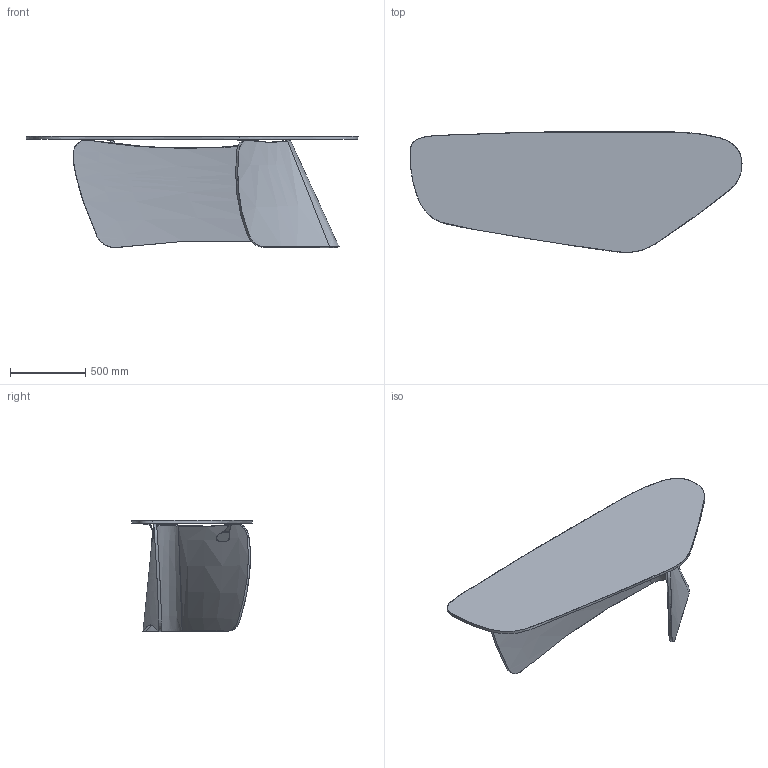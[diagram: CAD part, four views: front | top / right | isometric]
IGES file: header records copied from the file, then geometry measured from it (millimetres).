
Global section: file name: C:\Users\l.marzoli\Desktop\GRAPH_3D\2280 - Graph.igs; native system: Rhinoceros ( Aug 11 2021 ); preprocessor: Trout Lake IGES 012 Aug 11 2021; date: 231207.101100; units: millimetre
Bounding box: 2200.19 x 800.53 x 737.82 mm (x, y, z)
Surface area: 4815966.8 mm2 (no closed solid volume)
Topology: 0 solids, 0 shells, 121 faces, 1202 edges, 1201 vertices
Faces by surface type: bspline 121
